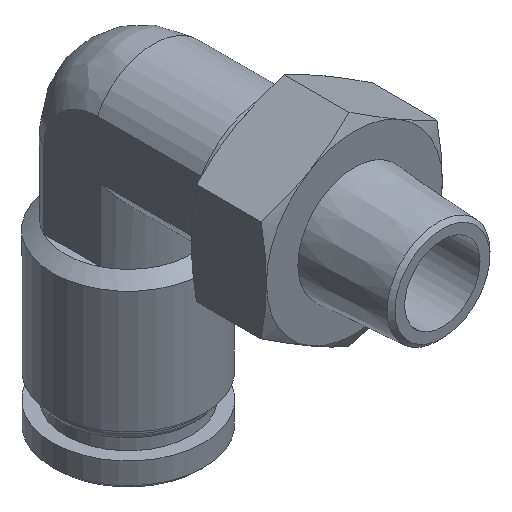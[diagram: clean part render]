
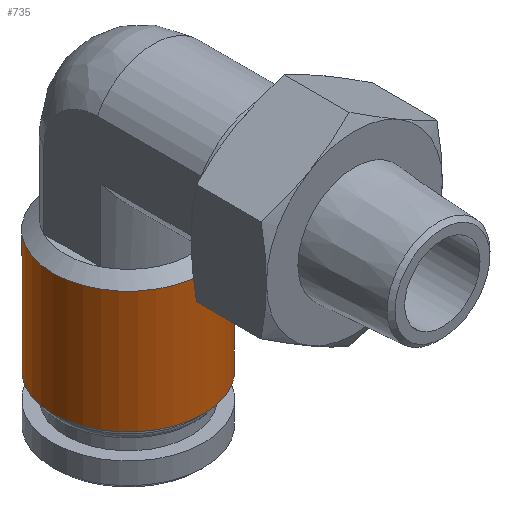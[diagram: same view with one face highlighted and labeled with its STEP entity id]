
A CAD part, isometric view. The second image highlights one B-rep face of the part: STEP entity #735.
In plain terms, the highlighted cylindrical face has radius 6 mm (diameter 12 mm), a full revolution.
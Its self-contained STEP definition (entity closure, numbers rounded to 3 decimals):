
#25=CYLINDRICAL_SURFACE('',#849,6.);
#120=FACE_OUTER_BOUND('',#177,.T.);
#177=EDGE_LOOP('',(#626,#627,#628,#629));
#207=LINE('',#1326,#237);
#237=VECTOR('',#1051,6.);
#286=CIRCLE('',#842,6.);
#289=CIRCLE('',#848,6.);
#350=VERTEX_POINT('',#1313);
#352=VERTEX_POINT('',#1323);
#443=EDGE_CURVE('',#350,#350,#286,.T.);
#447=EDGE_CURVE('',#352,#352,#289,.T.);
#448=EDGE_CURVE('',#350,#352,#207,.T.);
#626=ORIENTED_EDGE('',*,*,#443,.F.);
#627=ORIENTED_EDGE('',*,*,#448,.T.);
#628=ORIENTED_EDGE('',*,*,#447,.T.);
#629=ORIENTED_EDGE('',*,*,#448,.F.);
#735=ADVANCED_FACE('',(#120),#25,.T.);
#842=AXIS2_PLACEMENT_3D('',#1315,#1034,#1035);
#848=AXIS2_PLACEMENT_3D('',#1324,#1047,#1048);
#849=AXIS2_PLACEMENT_3D('',#1325,#1049,#1050);
#1034=DIRECTION('center_axis',(0.,0.,1.));
#1035=DIRECTION('ref_axis',(1.,0.,0.));
#1047=DIRECTION('center_axis',(0.,0.,1.));
#1048=DIRECTION('ref_axis',(1.,0.,0.));
#1049=DIRECTION('center_axis',(0.,0.,1.));
#1050=DIRECTION('ref_axis',(0.,-1.,0.));
#1051=DIRECTION('',(0.,0.,-1.));
#1313=CARTESIAN_POINT('',(0.,17.,-8.8));
#1315=CARTESIAN_POINT('Origin',(0.,11.,-8.8));
#1323=CARTESIAN_POINT('',(0.,17.,-18.5));
#1324=CARTESIAN_POINT('Origin',(0.,11.,-18.5));
#1325=CARTESIAN_POINT('Origin',(0.,11.,-13.65));
#1326=CARTESIAN_POINT('',(0.,17.,-13.65));
